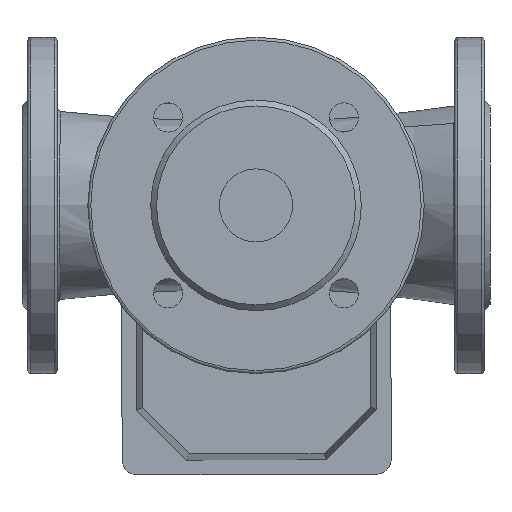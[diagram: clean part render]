
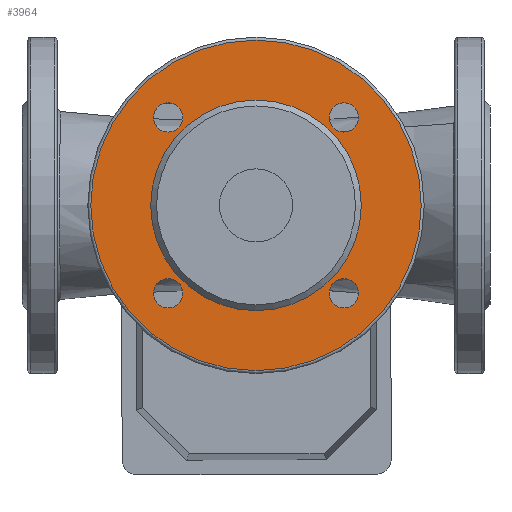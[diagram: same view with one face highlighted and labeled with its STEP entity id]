
A CAD part, front view. The second image highlights one B-rep face of the part: STEP entity #3964.
In plain terms, the highlighted planar face has unit normal (0, -1, 0).
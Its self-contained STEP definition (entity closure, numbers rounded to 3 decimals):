
#850=PLANE('',#4362);
#956=FACE_BOUND('',#1550,.T.);
#957=FACE_BOUND('',#1551,.T.);
#958=FACE_BOUND('',#1552,.T.);
#959=FACE_BOUND('',#1553,.T.);
#960=FACE_BOUND('',#1554,.T.);
#1210=FACE_OUTER_BOUND('',#1549,.T.);
#1549=EDGE_LOOP('',(#3611));
#1550=EDGE_LOOP('',(#3612));
#1551=EDGE_LOOP('',(#3613));
#1552=EDGE_LOOP('',(#3614));
#1553=EDGE_LOOP('',(#3615));
#1554=EDGE_LOOP('',(#3616));
#1724=CIRCLE('',#4300,5.);
#1726=CIRCLE('',#4303,5.);
#1728=CIRCLE('',#4306,5.);
#1730=CIRCLE('',#4309,5.);
#1760=CIRCLE('',#4361,36.);
#1761=CIRCLE('',#4363,56.5);
#2081=VERTEX_POINT('',#6465);
#2083=VERTEX_POINT('',#6470);
#2085=VERTEX_POINT('',#6475);
#2087=VERTEX_POINT('',#6480);
#2132=VERTEX_POINT('',#7880);
#2133=VERTEX_POINT('',#7883);
#2585=EDGE_CURVE('',#2081,#2081,#1724,.T.);
#2587=EDGE_CURVE('',#2083,#2083,#1726,.T.);
#2589=EDGE_CURVE('',#2085,#2085,#1728,.T.);
#2591=EDGE_CURVE('',#2087,#2087,#1730,.T.);
#2641=EDGE_CURVE('',#2132,#2132,#1760,.T.);
#2642=EDGE_CURVE('',#2133,#2133,#1761,.T.);
#3611=ORIENTED_EDGE('',*,*,#2642,.F.);
#3612=ORIENTED_EDGE('',*,*,#2585,.T.);
#3613=ORIENTED_EDGE('',*,*,#2587,.T.);
#3614=ORIENTED_EDGE('',*,*,#2589,.T.);
#3615=ORIENTED_EDGE('',*,*,#2591,.T.);
#3616=ORIENTED_EDGE('',*,*,#2641,.F.);
#3964=ADVANCED_FACE('',(#1210,#956,#957,#958,#959,#960),#850,.T.);
#4300=AXIS2_PLACEMENT_3D('',#6466,#5334,#5335);
#4303=AXIS2_PLACEMENT_3D('',#6471,#5340,#5341);
#4306=AXIS2_PLACEMENT_3D('',#6476,#5346,#5347);
#4309=AXIS2_PLACEMENT_3D('',#6481,#5352,#5353);
#4361=AXIS2_PLACEMENT_3D('',#7881,#5457,#5458);
#4362=AXIS2_PLACEMENT_3D('',#7882,#5459,#5460);
#4363=AXIS2_PLACEMENT_3D('',#7884,#5461,#5462);
#5334=DIRECTION('center_axis',(0.,1.,0.));
#5335=DIRECTION('ref_axis',(-0.581,0.,0.814));
#5340=DIRECTION('center_axis',(0.,1.,0.));
#5341=DIRECTION('ref_axis',(-0.814,0.,-0.581));
#5346=DIRECTION('center_axis',(0.,1.,0.));
#5347=DIRECTION('ref_axis',(0.581,0.,-0.814));
#5352=DIRECTION('center_axis',(0.,1.,0.));
#5353=DIRECTION('ref_axis',(0.814,0.,0.581));
#5457=DIRECTION('center_axis',(0.,-1.,0.));
#5458=DIRECTION('ref_axis',(0.814,0.,-0.581));
#5459=DIRECTION('center_axis',(0.,-1.,0.));
#5460=DIRECTION('ref_axis',(0.,0.,-1.));
#5461=DIRECTION('center_axis',(0.,1.,0.));
#5462=DIRECTION('ref_axis',(0.,0.,
-1.));
#6465=CARTESIAN_POINT('',(982.262,621.846,950.352));
#6466=CARTESIAN_POINT('Origin',(982.262,621.846,945.352));
#6470=CARTESIAN_POINT('',(977.262,621.846,885.248));
#6471=CARTESIAN_POINT('Origin',(982.262,621.846,885.248));
#6475=CARTESIAN_POINT('',(1042.366,621.846,880.248));
#6476=CARTESIAN_POINT('Origin',(1042.366,621.846,885.248));
#6480=CARTESIAN_POINT('',(1047.366,621.846,945.352));
#6481=CARTESIAN_POINT('Origin',(1042.366,621.846,945.352));
#7880=CARTESIAN_POINT('',(1048.314,621.846,915.3));
#7881=CARTESIAN_POINT('Origin',(1012.314,621.846,915.3));
#7882=CARTESIAN_POINT('Origin',(955.814,621.846,915.3));
#7883=CARTESIAN_POINT('',(1068.814,621.846,915.3));
#7884=CARTESIAN_POINT('Origin',(1012.314,621.846,915.3));
